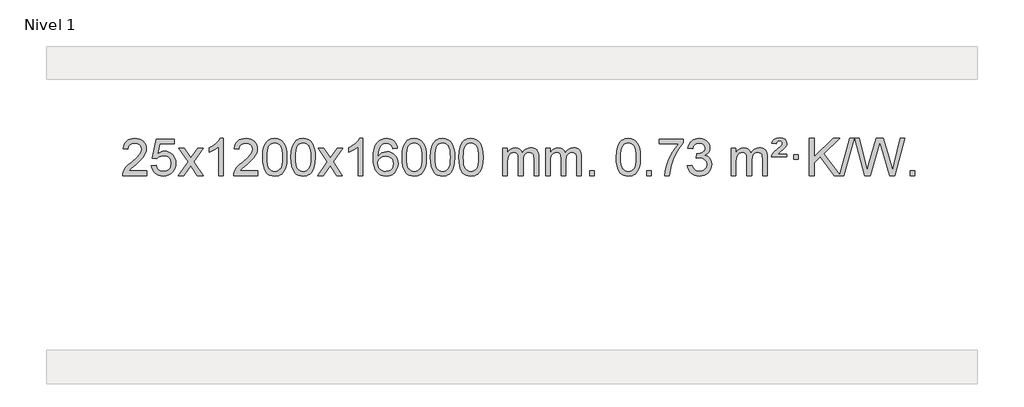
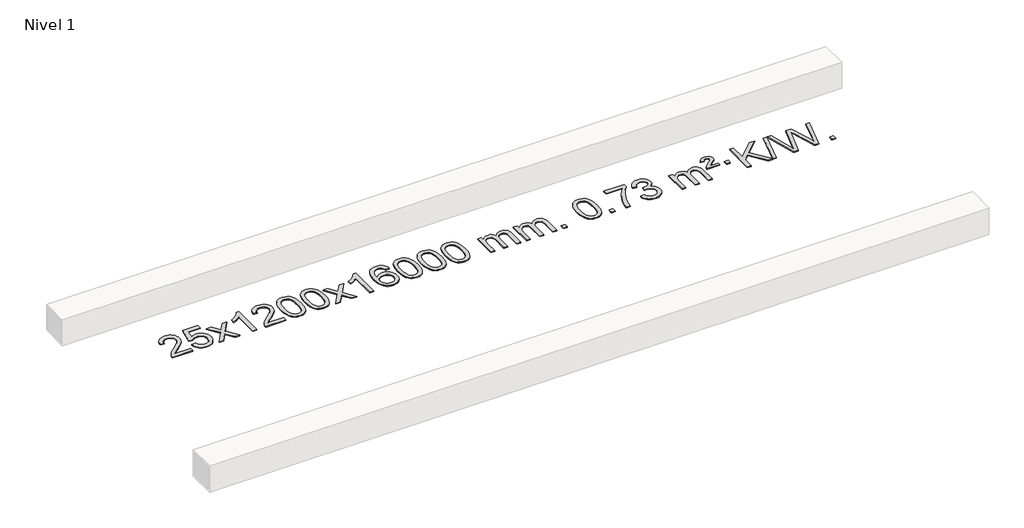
# One storey, part 4 of 4: 1 proxy.
"""IFC4 building model written with IfcOpenShell, lengths in millimetres."""

from ifc_helpers import new_model, si_unit, origin, origin_with_axes, place, context, project, spatial, polyline, outline, extrude, element, save

model = new_model("IFC4")

# Units and contexts
model_context = context("Model", 3, world=origin())
ifc_project = project(units=[si_unit("LENGTHUNIT", "METRE", prefix="MILLI")], contexts=[model_context])

# Site, building, storey
site = spatial("IfcSite", under=ifc_project)
building = spatial("IfcBuilding", under=site)
storey = spatial("IfcBuildingStorey", under=building, Name="Nivel 1", Elevation=0.0)

# Proxy
placement = place(None, origin())
element("IfcBuildingElementProxy", 1, Name="Texto de modelo 1", ObjectType="Texto de modelo 1", at=placement, inside=storey, context=model_context, shape_type="SweptSolid", body=[
    extrude(outline(polyline([(-18907.5476689, 2333.9033514), (-18907.5476689, 2283.6751963), (-19171.2454831, 2283.6751963), (-19170.1418371, 2301.3580575), (-19165.8498805, 2318.3051548), (-19153.46452, 2345.3690069), (-19135.3402003, 2371.6235186), (-19109.1224768, 2399.1043037), (-19072.4569046, 2429.8469757), (-19018.255624, 2477.9904662), (-18985.7348556, 2513.5278669), (-18969.4744714, 2542.3698153), (-18964.0543434, 2570.4269488), (-18969.1679031, 2595.5778145), (-18984.5085823, 2616.4857746), (-19008.0898182, 2630.575655), (-19037.925048, 2635.2722818), (-19069.2563313, 2630.6860196), (-19093.5978566, 2616.927233), (-19109.3064178, 2595.0750425), (-19114.7388086, 2566.2085686), (-19164.9669637, 2572.487088), (-19160.6474159, 2598.4166373), (-19152.7900696, 2621.0720368), (-19141.3949248, 2640.4532866), (-19126.4619815, 2656.5603866), (-19108.3345962, 2669.2216586), (-19087.3561254, 2678.2654243), (-19063.5265692, 2683.6916838), (-19036.8459275, 2685.5004369), (-19009.9261625, 2683.4893487), (-18985.9678476, 2677.4560839), (-18964.9709827, 2667.4006427), (-18946.9355679, 2653.3230251), (-18932.4502143, 2636.2655632), (-18922.1035332, 2617.2705895), (-18915.8955245, 2596.338104), (-18913.8261883, 2573.4681066), (-18916.0580057, 2549.4454124), (-18922.7534581, 2525.839651), (-18934.6360465, 2501.8292194), (-18952.4292723, 2476.5925146), (-18980.7929742, 2446.4629792), (-19024.3869906, 2407.774056), (-19082.1689893, 2359.4588873), (-19104.8305202, 2333.9033514), (-18907.5476689, 2333.9033514)])), origin_with_axes(), (0.0, 0.0, 1.0), 10.0),
    extrude(outline(polyline([(-18857.3195138, 2390.4100258), (-18807.0913588, 2396.6885452), (-18797.8697834, 2366.5344844), (-18781.7810775, 2344.9398112), (-18758.8988174, 2331.9535768), (-18729.2965795, 2327.624832), (-18710.1667158, 2329.1300825), (-18693.2931949, 2333.645834), (-18678.676017, 2341.1720865), (-18666.3151819, 2351.7088399), (-18656.4866013, 2364.7349283), (-18649.4661866, 2379.7291852), (-18643.8498548, 2415.6222052), (-18649.1105673, 2449.4182979), (-18655.686458, 2463.3365), (-18664.8927049, 2475.2681394), (-18676.7599649, 2484.8392026), (-18691.3188949, 2491.6756764), (-18728.5117646, 2497.1448554), (-18752.8778154, 2494.9620889), (-18772.6085531, 2488.4137894), (-18788.3661652, 2478.3828736), (-18800.8128394, 2465.7522585), (-18851.0409945, 2472.0307778), (-18807.0913588, 2679.2219175), (-18612.4572579, 2679.2219175), (-18612.4572579, 2628.9937624), (-18766.4771865, 2628.9937624), (-18787.961495, 2518.3348583), (-18770.2357142, 2531.0390499), (-18752.0807378, 2540.1134724), (-18733.4965656, 2545.5581259), (-18714.4831979, 2547.3730104), (-18690.0221109, 2545.1227989), (-18667.553718, 2538.3721643), (-18647.0780193, 2527.1211066), (-18628.5950147, 2511.3696259), (-18613.2941894, 2492.0803466), (-18602.3650285, 2470.2158933), (-18595.8075319, 2445.7762661), (-18593.6216997, 2418.7614649), (-18595.5898684, 2392.7399451), (-18601.4943744, 2368.5333099), (-18611.3352178, 2346.1415591), (-18625.1123985, 2325.5646928), (-18645.9835703, 2304.4911859), (-18670.3373584, 2289.4386809), (-18698.1737627, 2280.4071779), (-18729.4927833, 2277.3966769), (-18755.4131355, 2279.3311231), (-18778.8257588, 2285.1344616), (-18799.7306532, 2294.8066923), (-18818.1278186, 2308.3478154), (-18833.4347753, 2325.0833805), (-18845.0690434, 2344.3389373), (-18853.0306229, 2366.1144857), (-18857.3195138, 2390.4100258)])), origin_with_axes(), (0.0, 0.0, 1.0), 10.0),
    extrude(outline(polyline([(-18568.5076222, 2283.6751963), (-18461.1841814, 2432.0052168), (-18562.2291028, 2578.7656074), (-18501.7983537, 2578.7656074), (-18453.0417266, 2508.1322643), (-18430.2820938, 2474.7776301), (-18410.5636189, 2502.0499486), (-18355.0379631, 2578.7656074), (-18294.607214, 2578.7656074), (-18400.7534324, 2432.0052168), (-18298.5312886, 2283.6751963), (-18358.9620377, 2283.6751963), (-18420.4719073, 2372.8497919), (-18431.7536218, 2389.1347016), (-18508.0768731, 2283.6751963), (-18568.5076222, 2283.6751963)])), origin_with_axes(), (0.0, 0.0, 1.0), 10.0),
    extrude(outline(polyline([(-18078.7831102, 2283.6751963), (-18129.0112653, 2283.6751963), (-18129.0112653, 2596.8163506), (-18149.980539, 2579.8569906), (-18176.59067, 2562.9221561), (-18229.4675754, 2537.5628239), (-18229.4675754, 2585.0441268), (-18190.0183628, 2606.5039098), (-18155.8421254, 2632.0349203), (-18128.9009007, 2659.1846115), (-18111.1567258, 2685.5004369), (-18078.7831102, 2685.5004369), (-18078.7831102, 2283.6751963)])), origin_with_axes(), (0.0, 0.0, 1.0), 10.0),
    extrude(outline(polyline([(-17702.0719471, 2333.9033514), (-17702.0719471, 2283.6751963), (-17965.7697613, 2283.6751963), (-17964.6661153, 2301.3580575), (-17960.3741587, 2318.3051548), (-17947.9887982, 2345.3690069), (-17929.8644785, 2371.6235186), (-17903.646755, 2399.1043037), (-17866.9811828, 2429.8469757), (-17812.7799022, 2477.9904662), (-17780.2591338, 2513.5278669), (-17763.9987496, 2542.3698153), (-17758.5786216, 2570.4269488), (-17763.6921813, 2595.5778145), (-17779.0328605, 2616.4857746), (-17802.6140964, 2630.575655), (-17832.4493262, 2635.2722818), (-17863.7806095, 2630.6860196), (-17888.1221348, 2616.927233), (-17903.830696, 2595.0750425), (-17909.2630868, 2566.2085686), (-17959.4912419, 2572.487088), (-17955.1716941, 2598.4166373), (-17947.3143478, 2621.0720368), (-17935.919203, 2640.4532866), (-17920.9862597, 2656.5603866), (-17902.8588744, 2669.2216586), (-17881.8804036, 2678.2654243), (-17858.0508474, 2683.6916838), (-17831.3702057, 2685.5004369), (-17804.4504407, 2683.4893487), (-17780.4921258, 2677.4560839), (-17759.4952609, 2667.4006427), (-17741.4598461, 2653.3230251), (-17726.9744925, 2636.2655632), (-17716.6278114, 2617.2705895), (-17710.4198027, 2596.338104), (-17708.3504665, 2573.4681066), (-17710.5822839, 2549.4454124), (-17717.2777363, 2525.839651), (-17729.1603247, 2501.8292194), (-17746.9535505, 2476.5925146), (-17775.3172524, 2446.4629792), (-17818.9112688, 2407.774056), (-17876.6932675, 2359.4588873), (-17899.3547984, 2333.9033514), (-17702.0719471, 2333.9033514)])), origin_with_axes(), (0.0, 0.0, 1.0), 10.0),
    extrude(outline(polyline([(-17651.8437921, 2481.350455), (-17648.1527094, 2545.6684905), (-17637.0794613, 2596.9635034), (-17618.7344125, 2636.0203086), (-17606.8763495, 2651.2536888), (-17593.2279275, 2663.6237209), (-17577.7431612, 2673.1947842), (-17560.3760653, 2680.0312579), (-17519.994885, 2685.5004369), (-17489.0437465, 2682.2630753), (-17461.3299695, 2672.5509907), (-17438.1534038, 2656.7443276), (-17420.8138991, 2635.2232309), (-17407.7173001, 2608.1716415), (-17397.2694514, 2575.7735005), (-17390.4268463, 2534.6320307), (-17388.1459779, 2481.350455), (-17391.8002724, 2417.4003016), (-17402.7631558, 2366.227916), (-17420.9978401, 2327.1343227), (-17432.8283119, 2311.8549571), (-17446.4675369, 2299.4205457), (-17461.9706973, 2289.7851031), (-17479.3929754, 2282.9026441), (-17519.994885, 2277.3966769), (-17547.659611, 2279.7879099), (-17572.1850774, 2286.9616088), (-17593.571284, 2298.9177736), (-17611.818231, 2315.6564044), (-17629.3294139, 2345.9146985), (-17641.8374018, 2383.6164717), (-17649.3421945, 2428.7617238), (-17651.8437921, 2481.350455)]), holes=[polyline([(-17601.615637, 2481.4485569), (-17600.144109, 2437.7840298), (-17595.7295251, 2402.4397671), (-17588.3718851, 2375.4157689), (-17578.0711893, 2356.7120351), (-17565.6122524, 2343.9863837), (-17551.7798894, 2334.8966328), (-17536.5741002, 2329.4427822), (-17519.994885, 2327.624832), (-17503.4156697, 2329.4489136), (-17488.2098806, 2334.9211582), (-17474.3775176, 2344.041566), (-17461.9185807, 2356.8101369), (-17451.6178848, 2375.5445276), (-17444.2602449, 2402.5623944), (-17439.845661, 2437.8637375), (-17438.374133, 2481.4485569), (-17439.79661, 2523.9573215), (-17444.0640412, 2558.6792504), (-17451.1764264, 2585.6143438), (-17461.1337658, 2604.7626017), (-17473.3842362, 2618.1105868), (-17487.3760147, 2627.6448618), (-17503.1091014, 2633.3654268), (-17520.5834962, 2635.2722818), (-17537.0768723, 2633.5922874), (-17552.025144, 2628.5523041), (-17565.4283114, 2620.1523318), (-17577.2863744, 2608.3923707), (-17587.9304268, 2587.5457243), (-17595.5333213, 2559.4395399), (-17600.0950581, 2524.0738174), (-17601.615637, 2481.4485569)])]), origin_with_axes(), (0.0, 0.0, 1.0), 10.0),
    extrude(outline(polyline([(-17344.1963422, 2481.350455), (-17340.5052595, 2545.6684905), (-17329.4320115, 2596.9635034), (-17311.0869627, 2636.0203086), (-17299.2288997, 2651.2536888), (-17285.5804777, 2663.6237209), (-17270.0957113, 2673.1947842), (-17252.7286155, 2680.0312579), (-17212.3474351, 2685.5004369), (-17181.3962966, 2682.2630753), (-17153.6825196, 2672.5509907), (-17130.505954, 2656.7443276), (-17113.1664492, 2635.2232309), (-17100.0698502, 2608.1716415), (-17089.6220016, 2575.7735005), (-17082.7793964, 2534.6320307), (-17080.4985281, 2481.350455), (-17084.1528226, 2417.4003016), (-17095.115706, 2366.227916), (-17113.3503902, 2327.1343227), (-17125.1808621, 2311.8549571), (-17138.820087, 2299.4205457), (-17154.3232475, 2289.7851031), (-17171.7455256, 2282.9026441), (-17212.3474351, 2277.3966769), (-17240.0121612, 2279.7879099), (-17264.5376275, 2286.9616088), (-17285.9238342, 2298.9177736), (-17304.1707811, 2315.6564044), (-17321.6819641, 2345.9146985), (-17334.1899519, 2383.6164717), (-17341.6947446, 2428.7617238), (-17344.1963422, 2481.350455)]), holes=[polyline([(-17293.9681871, 2481.4485569), (-17292.4966592, 2437.7840298), (-17288.0820752, 2402.4397671), (-17280.7244353, 2375.4157689), (-17270.4237395, 2356.7120351), (-17257.9648025, 2343.9863837), (-17244.1324395, 2334.8966328), (-17228.9266504, 2329.4427822), (-17212.3474351, 2327.624832), (-17195.7682199, 2329.4489136), (-17180.5624308, 2334.9211582), (-17166.7300677, 2344.041566), (-17154.2711308, 2356.8101369), (-17143.970435, 2375.5445276), (-17136.6127951, 2402.5623944), (-17132.1982111, 2437.8637375), (-17130.7266831, 2481.4485569), (-17132.1491602, 2523.9573215), (-17136.4165913, 2558.6792504), (-17143.5289766, 2585.6143438), (-17153.4863159, 2604.7626017), (-17165.7367864, 2618.1105868), (-17179.7285649, 2627.6448618), (-17195.4616516, 2633.3654268), (-17212.9360463, 2635.2722818), (-17229.4294225, 2633.5922874), (-17244.3776942, 2628.5523041), (-17257.7808616, 2620.1523318), (-17269.6389245, 2608.3923707), (-17280.2829769, 2587.5457243), (-17287.8858715, 2559.4395399), (-17292.4476082, 2524.0738174), (-17293.9681871, 2481.4485569)])]), origin_with_axes(), (0.0, 0.0, 1.0), 10.0),
    extrude(outline(polyline([(-17055.3844505, 2283.6751963), (-16948.0610098, 2432.0052168), (-17049.1059312, 2578.7656074), (-16988.6751821, 2578.7656074), (-16939.918555, 2508.1322643), (-16917.1589222, 2474.7776301), (-16897.4404473, 2502.0499486), (-16841.9147915, 2578.7656074), (-16781.4840424, 2578.7656074), (-16887.6302607, 2432.0052168), (-16785.408117, 2283.6751963), (-16845.8388661, 2283.6751963), (-16907.3487357, 2372.8497919), (-16918.6304502, 2389.1347016), (-16994.9537015, 2283.6751963), (-17055.3844505, 2283.6751963)])), origin_with_axes(), (0.0, 0.0, 1.0), 10.0),
    extrude(outline(polyline([(-16565.6599386, 2283.6751963), (-16615.8880936, 2283.6751963), (-16615.8880936, 2596.8163506), (-16636.8573674, 2579.8569906), (-16663.4674983, 2562.9221561), (-16716.3444038, 2537.5628239), (-16716.3444038, 2585.0441268), (-16676.8951912, 2606.5039098), (-16642.7189538, 2632.0349203), (-16615.777729, 2659.1846115), (-16598.0335541, 2685.5004369), (-16565.6599386, 2685.5004369), (-16565.6599386, 2283.6751963)])), origin_with_axes(), (0.0, 0.0, 1.0), 10.0),
    extrude(outline(polyline([(-16188.9487755, 2578.7656074), (-16239.1769306, 2572.487088), (-16247.2703345, 2597.3804363), (-16258.2086925, 2614.3765845), (-16280.9928507, 2630.0483575), (-16308.5349494, 2635.2722818), (-16331.8831934, 2632.231124), (-16353.8580112, 2623.1076505), (-16372.7303576, 2603.8919476), (-16388.1446132, 2577.4412322), (-16398.5556736, 2540.0276333), (-16402.4184346, 2487.92328), (-16382.270764, 2511.4309395), (-16358.1254423, 2527.997892), (-16331.3313704, 2537.8203413), (-16303.2374487, 2541.0944911), (-16279.1043898, 2538.8565423), (-16256.8352663, 2532.1426958), (-16236.4300783, 2520.9529518), (-16217.8888258, 2505.2873102), (-16202.4807016, 2486.0777387), (-16191.4748985, 2464.256205), (-16184.8714167, 2439.8227092), (-16182.6702561, 2412.7772511), (-16186.8150599, 2376.8106548), (-16199.2494714, 2343.4682833), (-16218.9434208, 2315.1904206), (-16244.8668388, 2294.4173506), (-16275.8425028, 2281.6518453), (-16310.6931904, 2277.3966769), (-16340.6357192, 2280.2171056), (-16367.6781115, 2288.6783914), (-16391.8203674, 2302.7805346), (-16413.062487, 2322.523535), (-16430.3805319, 2348.7412585), (-16442.750564, 2382.267571), (-16450.1725832, 2423.1024725), (-16452.6465896, 2471.2459629), (-16449.8997374, 2525.220383), (-16441.6591807, 2571.2853401), (-16427.9249196, 2609.4408344), (-16408.6969539, 2639.6868658), (-16387.8564389, 2659.7303031), (-16363.6927232, 2674.0470441), (-16336.2058068, 2682.6370887), (-16305.3956897, 2685.5004369), (-16282.2620436, 2683.728472), (-16261.3234267, 2678.4125771), (-16242.579839, 2669.5527524), (-16226.0312806, 2657.1489978), (-16212.1253412, 2641.6182462), (-16201.3096105, 2623.3774307), (-16193.5840886, 2602.426551), (-16188.9487755, 2578.7656074)]), holes=[polyline([(-16402.4184346, 2413.5620661), (-16399.5121668, 2391.3052054), (-16390.7933635, 2370.0538888), (-16377.2553061, 2351.7824163), (-16359.8912759, 2338.4650881), (-16338.9342649, 2330.334896), (-16314.617265, 2327.624832), (-16281.4710973, 2333.2411638), (-16267.5559608, 2340.2615785), (-16255.4127893, 2350.0901592), (-16245.5627489, 2362.3283669), (-16238.5270057, 2376.5776628), (-16232.8984112, 2411.1095194), (-16238.4534293, 2444.2556872), (-16245.397202, 2457.8765181), (-16255.1184837, 2469.5291803), (-16267.2984434, 2478.8641859), (-16281.6182501, 2485.5320471), (-16316.6774042, 2490.866336), (-16349.7745211, 2485.5320471), (-16377.4515098, 2469.5291803), (-16388.3745394, 2458.0298022), (-16396.1767034, 2444.8688239), (-16400.8580018, 2430.0462451), (-16402.4184346, 2413.5620661)])]), origin_with_axes(), (0.0, 0.0, 1.0), 10.0),
    extrude(outline(polyline([(-16138.7206204, 2481.350455), (-16135.0295377, 2545.6684905), (-16123.9562897, 2596.9635034), (-16105.6112409, 2636.0203086), (-16093.7531779, 2651.2536888), (-16080.1047559, 2663.6237209), (-16064.6199895, 2673.1947842), (-16047.2528937, 2680.0312579), (-16006.8717134, 2685.5004369), (-15975.9205748, 2682.2630753), (-15948.2067979, 2672.5509907), (-15925.0302322, 2656.7443276), (-15907.6907275, 2635.2232309), (-15894.5941284, 2608.1716415), (-15884.1462798, 2575.7735005), (-15877.3036746, 2534.6320307), (-15875.0228063, 2481.350455), (-15878.6771008, 2417.4003016), (-15889.6399842, 2366.227916), (-15907.8746684, 2327.1343227), (-15919.7051403, 2311.8549571), (-15933.3443652, 2299.4205457), (-15948.8475257, 2289.7851031), (-15966.2698038, 2282.9026441), (-16006.8717134, 2277.3966769), (-16034.5364394, 2279.7879099), (-16059.0619057, 2286.9616088), (-16080.4481124, 2298.9177736), (-16098.6950593, 2315.6564044), (-16116.2062423, 2345.9146985), (-16128.7142302, 2383.6164717), (-16136.2190229, 2428.7617238), (-16138.7206204, 2481.350455)]), holes=[polyline([(-16088.4924653, 2481.4485569), (-16087.0209374, 2437.7840298), (-16082.6063534, 2402.4397671), (-16075.2487135, 2375.4157689), (-16064.9480177, 2356.7120351), (-16052.4890808, 2343.9863837), (-16038.6567177, 2334.8966328), (-16023.4509286, 2329.4427822), (-16006.8717134, 2327.624832), (-15990.2924981, 2329.4489136), (-15975.086709, 2334.9211582), (-15961.2543459, 2344.041566), (-15948.795409, 2356.8101369), (-15938.4947132, 2375.5445276), (-15931.1370733, 2402.5623944), (-15926.7224893, 2437.8637375), (-15925.2509614, 2481.4485569), (-15926.6734384, 2523.9573215), (-15930.9408695, 2558.6792504), (-15938.0532548, 2585.6143438), (-15948.0105941, 2604.7626017), (-15960.2610646, 2618.1105868), (-15974.2528431, 2627.6448618), (-15989.9859298, 2633.3654268), (-16007.4603245, 2635.2722818), (-16023.9537007, 2633.5922874), (-16038.9019724, 2628.5523041), (-16052.3051398, 2620.1523318), (-16064.1632027, 2608.3923707), (-16074.8072551, 2587.5457243), (-16082.4101497, 2559.4395399), (-16086.9718864, 2524.0738174), (-16088.4924653, 2481.4485569)])]), origin_with_axes(), (0.0, 0.0, 1.0), 10.0),
    extrude(outline(polyline([(-15831.0731706, 2481.350455), (-15827.3820879, 2545.6684905), (-15816.3088398, 2596.9635034), (-15797.963791, 2636.0203086), (-15786.105728, 2651.2536888), (-15772.457306, 2663.6237209), (-15756.9725397, 2673.1947842), (-15739.6054439, 2680.0312579), (-15699.2242635, 2685.5004369), (-15668.273125, 2682.2630753), (-15640.559348, 2672.5509907), (-15617.3827823, 2656.7443276), (-15600.0432776, 2635.2232309), (-15586.9466786, 2608.1716415), (-15576.4988299, 2575.7735005), (-15569.6562248, 2534.6320307), (-15567.3753564, 2481.350455), (-15571.0296509, 2417.4003016), (-15581.9925344, 2366.227916), (-15600.2272186, 2327.1343227), (-15612.0576904, 2311.8549571), (-15625.6969154, 2299.4205457), (-15641.2000758, 2289.7851031), (-15658.622354, 2282.9026441), (-15699.2242635, 2277.3966769), (-15726.8889896, 2279.7879099), (-15751.4144559, 2286.9616088), (-15772.8006626, 2298.9177736), (-15791.0476095, 2315.6564044), (-15808.5587925, 2345.9146985), (-15821.0667803, 2383.6164717), (-15828.571573, 2428.7617238), (-15831.0731706, 2481.350455)]), holes=[polyline([(-15780.8450155, 2481.4485569), (-15779.3734875, 2437.7840298), (-15774.9589036, 2402.4397671), (-15767.6012637, 2375.4157689), (-15757.3005678, 2356.7120351), (-15744.8416309, 2343.9863837), (-15731.0092679, 2334.8966328), (-15715.8034788, 2329.4427822), (-15699.2242635, 2327.624832), (-15682.6450483, 2329.4489136), (-15667.4392591, 2334.9211582), (-15653.6068961, 2344.041566), (-15641.1479592, 2356.8101369), (-15630.8472633, 2375.5445276), (-15623.4896234, 2402.5623944), (-15619.0750395, 2437.8637375), (-15617.6035115, 2481.4485569), (-15619.0259886, 2523.9573215), (-15623.2934197, 2558.6792504), (-15630.405805, 2585.6143438), (-15640.3631443, 2604.7626017), (-15652.6136147, 2618.1105868), (-15666.6053933, 2627.6448618), (-15682.3384799, 2633.3654268), (-15699.8128747, 2635.2722818), (-15716.3062508, 2633.5922874), (-15731.2545226, 2628.5523041), (-15744.6576899, 2620.1523318), (-15756.5157529, 2608.3923707), (-15767.1598053, 2587.5457243), (-15774.7626999, 2559.4395399), (-15779.3244366, 2524.0738174), (-15780.8450155, 2481.4485569)])]), origin_with_axes(), (0.0, 0.0, 1.0), 10.0),
    extrude(outline(polyline([(-15523.4257208, 2481.350455), (-15519.7346381, 2545.6684905), (-15508.66139, 2596.9635034), (-15490.3163412, 2636.0203086), (-15478.4582782, 2651.2536888), (-15464.8098562, 2663.6237209), (-15449.3250899, 2673.1947842), (-15431.957994, 2680.0312579), (-15391.5768137, 2685.5004369), (-15360.6256752, 2682.2630753), (-15332.9118982, 2672.5509907), (-15309.7353325, 2656.7443276), (-15292.3958278, 2635.2232309), (-15279.2992288, 2608.1716415), (-15268.8513801, 2575.7735005), (-15262.008775, 2534.6320307), (-15259.7279066, 2481.350455), (-15263.3822011, 2417.4003016), (-15274.3450846, 2366.227916), (-15292.5797688, 2327.1343227), (-15304.4102406, 2311.8549571), (-15318.0494656, 2299.4205457), (-15333.552626, 2289.7851031), (-15350.9749041, 2282.9026441), (-15391.5768137, 2277.3966769), (-15419.2415397, 2279.7879099), (-15443.7670061, 2286.9616088), (-15465.1532127, 2298.9177736), (-15483.4001597, 2315.6564044), (-15500.9113427, 2345.9146985), (-15513.4193305, 2383.6164717), (-15520.9241232, 2428.7617238), (-15523.4257208, 2481.350455)]), holes=[polyline([(-15473.1975657, 2481.4485569), (-15471.7260377, 2437.7840298), (-15467.3114538, 2402.4397671), (-15459.9538139, 2375.4157689), (-15449.653118, 2356.7120351), (-15437.1941811, 2343.9863837), (-15423.3618181, 2334.8966328), (-15408.1560289, 2329.4427822), (-15391.5768137, 2327.624832), (-15374.9975984, 2329.4489136), (-15359.7918093, 2334.9211582), (-15345.9594463, 2344.041566), (-15333.5005094, 2356.8101369), (-15323.1998135, 2375.5445276), (-15315.8421736, 2402.5623944), (-15311.4275897, 2437.8637375), (-15309.9560617, 2481.4485569), (-15311.3785387, 2523.9573215), (-15315.6459699, 2558.6792504), (-15322.7583551, 2585.6143438), (-15332.7156945, 2604.7626017), (-15344.9661649, 2618.1105868), (-15358.9579434, 2627.6448618), (-15374.6910301, 2633.3654268), (-15392.1654249, 2635.2722818), (-15408.658801, 2633.5922874), (-15423.6070727, 2628.5523041), (-15437.0102401, 2620.1523318), (-15448.8683031, 2608.3923707), (-15459.5123555, 2587.5457243), (-15467.11525, 2559.4395399), (-15471.6769868, 2524.0738174), (-15473.1975657, 2481.4485569)])]), origin_with_axes(), (0.0, 0.0, 1.0), 10.0),
    extrude(outline(polyline([(-15046.2582475, 2283.6751963), (-15046.2582475, 2578.7656074), (-14996.0300925, 2578.7656074), (-14996.0300925, 2530.205184), (-14980.9224052, 2552.5110956), (-14961.4982359, 2569.9854904), (-14938.419772, 2581.2794677), (-14912.3492013, 2585.0441268), (-14884.4146951, 2581.2058913), (-14862.0229444, 2569.6911848), (-14845.2965763, 2551.2602969), (-14834.3582183, 2526.6735169), (-14816.0499577, 2552.2106587), (-14795.1665231, 2570.4514743), (-14771.7079145, 2581.3959636), (-14745.674132, 2585.0441268), (-14725.5663153, 2583.5266135), (-14707.9171766, 2578.9740738), (-14692.7267159, 2571.3865077), (-14679.9949331, 2560.7639151), (-14669.9302949, 2546.9836687), (-14662.7412676, 2529.9231411), (-14658.4278512, 2509.5823325), (-14656.9900457, 2485.9612427), (-14656.9900457, 2283.6751963), (-14707.2182008, 2283.6751963), (-14707.2182008, 2464.3788323), (-14708.3831604, 2489.4315962), (-14711.8780394, 2506.3173798), (-14718.4263389, 2517.8811372), (-14728.7515602, 2526.9678224), (-14742.0321003, 2532.8539344), (-14757.4463559, 2534.8159717), (-14784.6573608, 2529.7882511), (-14806.8406451, 2514.7050893), (-14815.4460181, 2503.1352005), (-14821.5927131, 2488.5364167), (-14826.5100691, 2450.2521637), (-14826.5100691, 2283.6751963), (-14876.7382242, 2283.6751963), (-14876.7382242, 2469.9706387), (-14879.6444919, 2498.3711287), (-14888.3632952, 2518.6291639), (-14903.7039744, 2530.7692697), (-14926.4758699, 2534.8159717), (-14945.8264629, 2532.1181704), (-14963.6564769, 2524.0247665), (-14978.3717567, 2510.7319637), (-14988.378147, 2492.4359658), (-14994.1171061, 2467.0521082), (-14996.0300925, 2432.4957261), (-14996.0300925, 2283.6751963), (-15046.2582475, 2283.6751963)])), origin_with_axes(), (0.0, 0.0, 1.0), 10.0),
    extrude(outline(polyline([(-14581.6478131, 2283.6751963), (-14581.6478131, 2578.7656074), (-14531.419658, 2578.7656074), (-14531.419658, 2530.205184), (-14516.3119708, 2552.5110956), (-14496.8878014, 2569.9854904), (-14473.8093376, 2581.2794677), (-14447.7387669, 2585.0441268), (-14419.8042607, 2581.2058913), (-14397.4125099, 2569.6911848), (-14380.6861419, 2551.2602969), (-14369.7477839, 2526.6735169), (-14351.4395233, 2552.2106587), (-14330.5560887, 2570.4514743), (-14307.0974801, 2581.3959636), (-14281.0636976, 2585.0441268), (-14260.9558809, 2583.5266135), (-14243.3067421, 2578.9740738), (-14228.1162814, 2571.3865077), (-14215.3844987, 2560.7639151), (-14205.3198605, 2546.9836687), (-14198.1308331, 2529.9231411), (-14193.8174167, 2509.5823325), (-14192.3796113, 2485.9612427), (-14192.3796113, 2283.6751963), (-14242.6077663, 2283.6751963), (-14242.6077663, 2464.3788323), (-14243.772726, 2489.4315962), (-14247.267605, 2506.3173798), (-14253.8159045, 2517.8811372), (-14264.1411258, 2526.9678224), (-14277.4216658, 2532.8539344), (-14292.8359214, 2534.8159717), (-14320.0469263, 2529.7882511), (-14342.2302106, 2514.7050893), (-14350.8355836, 2503.1352005), (-14356.9822786, 2488.5364167), (-14361.8996347, 2450.2521637), (-14361.8996347, 2283.6751963), (-14412.1277897, 2283.6751963), (-14412.1277897, 2469.9706387), (-14415.0340575, 2498.3711287), (-14423.7528608, 2518.6291639), (-14439.09354, 2530.7692697), (-14461.8654355, 2534.8159717), (-14481.2160284, 2532.1181704), (-14499.0460425, 2524.0247665), (-14513.7613223, 2510.7319637), (-14523.7677125, 2492.4359658), (-14529.5066717, 2467.0521082), (-14531.419658, 2432.4957261), (-14531.419658, 2283.6751963), (-14581.6478131, 2283.6751963)])), origin_with_axes(), (0.0, 0.0, 1.0), 10.0),
    extrude(outline(polyline([(-14104.4803399, 2283.6751963), (-14104.4803399, 2333.9033514), (-14054.2521848, 2333.9033514), (-14054.2521848, 2283.6751963), (-14104.4803399, 2283.6751963)])), origin_with_axes(), (0.0, 0.0, 1.0), 10.0),
    extrude(outline(polyline([(-13815.6684482, 2481.350455), (-13811.9773655, 2545.6684905), (-13800.9041175, 2596.9635034), (-13782.5590686, 2636.0203086), (-13770.7010057, 2651.2536888), (-13757.0525836, 2663.6237209), (-13741.5678173, 2673.1947842), (-13724.2007215, 2680.0312579), (-13683.8195411, 2685.5004369), (-13652.8684026, 2682.2630753), (-13625.1546256, 2672.5509907), (-13601.9780599, 2656.7443276), (-13584.6385552, 2635.2232309), (-13571.5419562, 2608.1716415), (-13561.0941075, 2575.7735005), (-13554.2515024, 2534.6320307), (-13551.9706341, 2481.350455), (-13555.6249286, 2417.4003016), (-13566.587812, 2366.227916), (-13584.8224962, 2327.1343227), (-13596.6529681, 2311.8549571), (-13610.292193, 2299.4205457), (-13625.7953535, 2289.7851031), (-13643.2176316, 2282.9026441), (-13683.8195411, 2277.3966769), (-13711.4842672, 2279.7879099), (-13736.0097335, 2286.9616088), (-13757.3959402, 2298.9177736), (-13775.6428871, 2315.6564044), (-13793.1540701, 2345.9146985), (-13805.6620579, 2383.6164717), (-13813.1668506, 2428.7617238), (-13815.6684482, 2481.350455)]), holes=[polyline([(-13765.4402931, 2481.4485569), (-13763.9687652, 2437.7840298), (-13759.5541812, 2402.4397671), (-13752.1965413, 2375.4157689), (-13741.8958454, 2356.7120351), (-13729.4369085, 2343.9863837), (-13715.6045455, 2334.8966328), (-13700.3987564, 2329.4427822), (-13683.8195411, 2327.624832), (-13667.2403259, 2329.4489136), (-13652.0345368, 2334.9211582), (-13638.2021737, 2344.041566), (-13625.7432368, 2356.8101369), (-13615.442541, 2375.5445276), (-13608.0849011, 2402.5623944), (-13603.6703171, 2437.8637375), (-13602.1987891, 2481.4485569), (-13603.6212662, 2523.9573215), (-13607.8886973, 2558.6792504), (-13615.0010826, 2585.6143438), (-13624.9584219, 2604.7626017), (-13637.2088924, 2618.1105868), (-13651.2006709, 2627.6448618), (-13666.9337576, 2633.3654268), (-13684.4081523, 2635.2722818), (-13700.9015285, 2633.5922874), (-13715.8498002, 2628.5523041), (-13729.2529675, 2620.1523318), (-13741.1110305, 2608.3923707), (-13751.7550829, 2587.5457243), (-13759.3579775, 2559.4395399), (-13763.9197142, 2524.0738174), (-13765.4402931, 2481.4485569)])]), origin_with_axes(), (0.0, 0.0, 1.0), 10.0),
    extrude(outline(polyline([(-13482.9069208, 2283.6751963), (-13482.9069208, 2333.9033514), (-13432.6787658, 2333.9033514), (-13432.6787658, 2283.6751963), (-13482.9069208, 2283.6751963)])), origin_with_axes(), (0.0, 0.0, 1.0), 10.0),
    extrude(outline(polyline([(-13351.0580138, 2628.9937624), (-13351.0580138, 2679.2219175), (-13087.3601996, 2679.2219175), (-13087.3601996, 2638.6077453), (-13124.9454768, 2591.0406033), (-13162.162872, 2530.5485405), (-13194.9902087, 2462.649787), (-13219.4053104, 2392.8625725), (-13231.373738, 2340.6478546), (-13238.0446649, 2283.6751963), (-13288.2728199, 2283.6751963), (-13282.8404291, 2335.4484558), (-13268.3090903, 2396.9828508), (-13245.071211, 2462.2083286), (-13213.5191985, 2525.0548361), (-13176.6819481, 2581.8680789), (-13137.5883547, 2628.9937624), (-13351.0580138, 2628.9937624)])), origin_with_axes(), (0.0, 0.0, 1.0), 10.0),
    extrude(outline(polyline([(-13043.4105639, 2390.4100258), (-12993.1824089, 2396.6885452), (-12981.9374825, 2365.12427), (-12965.4686319, 2343.8116398), (-12942.9665165, 2331.6715339), (-12913.621796, 2327.624832), (-12879.1880413, 2333.1921129), (-12864.9142199, 2340.1512139), (-12852.6024358, 2349.8939554), (-12835.6062876, 2374.8118292), (-12829.9409049, 2405.0272038), (-12835.5572367, 2433.7097367), (-12852.406232, 2456.9721415), (-12877.912717, 2472.3863971), (-12909.5015177, 2477.5244823), (-12944.7200874, 2472.0307778), (-12939.128281, 2522.2589329), (-12931.0839281, 2521.6703217), (-12900.9911809, 2525.2755653), (-12874.0867443, 2536.0912959), (-12863.0134962, 2544.270539), (-12855.1040333, 2554.3872938), (-12850.3583556, 2566.4415605), (-12848.776463, 2580.4333391), (-12853.3627252, 2602.1261141), (-12867.1215118, 2619.7231362), (-12888.115311, 2631.3849954), (-12914.406611, 2635.2722818), (-12940.7469618, 2631.3482072), (-12962.2803213, 2619.5759834), (-12978.0011452, 2599.9556103), (-12986.9038895, 2572.487088), (-13037.1320446, 2578.7656074), (-13031.1784876, 2602.7453821), (-13022.3431883, 2623.86794), (-13010.6261468, 2642.133281), (-12996.027363, 2657.5414053), (-12979.0066893, 2669.7734816), (-12960.0239784, 2678.510679), (-12939.0792301, 2683.7529974), (-12916.1724445, 2685.5004369), (-12884.5959066, 2682.0546089), (-12855.5945427, 2671.7171248), (-12831.1426527, 2655.4076897), (-12813.2145368, 2634.0460085), (-12802.2148652, 2609.434703), (-12798.5483079, 2583.376395), (-12802.0309242, 2559.0961834), (-12812.4787728, 2537.0723146), (-12829.7447011, 2518.3103328), (-12853.6815563, 2503.8157822), (-12822.2399084, 2491.1115907), (-12798.9407154, 2469.4801293), (-12784.5197412, 2440.0986207), (-12779.7127498, 2404.144287), (-12782.1162455, 2378.6623275), (-12789.3267326, 2355.1914562), (-12801.3442111, 2333.7316731), (-12818.168681, 2314.2829783), (-12838.6658395, 2298.1452214), (-12861.7013838, 2286.6182523), (-12887.2753138, 2279.7020708), (-12915.3876296, 2277.3966769), (-12940.7960127, 2279.3648456), (-12963.948053, 2285.2693516), (-12984.8437503, 2295.110195), (-13003.4831047, 2308.8873757), (-13019.1119582, 2325.7915534), (-13030.9761525, 2345.0133876), (-13039.0756878, 2366.5528785), (-13043.4105639, 2390.4100258)])), origin_with_axes(), (0.0, 0.0, 1.0), 10.0),
    extrude(outline(polyline([(-12566.2430907, 2283.6751963), (-12566.2430907, 2578.7656074), (-12516.0149357, 2578.7656074), (-12516.0149357, 2530.205184), (-12500.9072484, 2552.5110956), (-12481.483079, 2569.9854904), (-12458.4046152, 2581.2794677), (-12432.3340445, 2585.0441268), (-12404.3995383, 2581.2058913), (-12382.0077875, 2569.6911848), (-12365.2814195, 2551.2602969), (-12354.3430615, 2526.6735169), (-12336.0348009, 2552.2106587), (-12315.1513663, 2570.4514743), (-12291.6927577, 2581.3959636), (-12265.6589752, 2585.0441268), (-12245.5511585, 2583.5266135), (-12227.9020198, 2578.9740738), (-12212.711559, 2571.3865077), (-12199.9797763, 2560.7639151), (-12189.9151381, 2546.9836687), (-12182.7261108, 2529.9231411), (-12178.4126944, 2509.5823325), (-12176.9748889, 2485.9612427), (-12176.9748889, 2283.6751963), (-12227.203044, 2283.6751963), (-12227.203044, 2464.3788323), (-12228.3680036, 2489.4315962), (-12231.8628826, 2506.3173798), (-12238.4111821, 2517.8811372), (-12248.7364034, 2526.9678224), (-12262.0169434, 2532.8539344), (-12277.431199, 2534.8159717), (-12304.642204, 2529.7882511), (-12326.8254883, 2514.7050893), (-12335.4308613, 2503.1352005), (-12341.5775563, 2488.5364167), (-12346.4949123, 2450.2521637), (-12346.4949123, 2283.6751963), (-12396.7230673, 2283.6751963), (-12396.7230673, 2469.9706387), (-12399.6293351, 2498.3711287), (-12408.3481384, 2518.6291639), (-12423.6888176, 2530.7692697), (-12446.4607131, 2534.8159717), (-12465.811306, 2532.1181704), (-12483.6413201, 2524.0247665), (-12498.3565999, 2510.7319637), (-12508.3629902, 2492.4359658), (-12514.1019493, 2467.0521082), (-12516.0149357, 2432.4957261), (-12516.0149357, 2283.6751963), (-12566.2430907, 2283.6751963)])), origin_with_axes(), (0.0, 0.0, 1.0), 10.0),
    extrude(outline(polyline([(-12133.0252532, 2484.5878166), (-12129.1992805, 2500.4067424), (-12120.8606219, 2516.2747191), (-12099.3517879, 2541.4133221), (-12067.3951053, 2569.1516246), (-12023.2492658, 2606.5284353), (-12016.1123551, 2618.0554045), (-12013.7333849, 2629.8766792), (-12015.6218458, 2641.9677341), (-12021.2872285, 2651.7533952), (-12030.6559567, 2658.2281183), (-12043.6544538, 2660.3863594), (-12056.0888653, 2658.7676786), (-12064.9425586, 2653.9116363), (-12071.3682308, 2644.4448062), (-12076.5185787, 2628.9937624), (-12126.7467338, 2635.2722818), (-12115.9064777, 2660.4844612), (-12099.2782115, 2678.0446951), (-12075.5130346, 2688.345391), (-12043.2620464, 2691.7789563), (-12007.479391, 2687.6464152), (-11982.7331954, 2675.248792), (-11968.3122212, 2656.9160059), (-11963.5052298, 2634.9779762), (-11967.6009827, 2612.0711907), (-11979.8882413, 2590.4397294), (-12000.4160567, 2570.6231525), (-12036.8854251, 2542.566019), (-12062.490012, 2515.9804135), (-11963.5052298, 2515.9804135), (-11963.5052298, 2484.5878166), (-12133.0252532, 2484.5878166)])), origin_with_axes(), (0.0, 0.0, 1.0), 10.0),
    extrude(outline(polyline([(-11888.1629972, 2459.4737391), (-11888.1629972, 2509.7018941), (-11837.9348421, 2509.7018941), (-11837.9348421, 2459.4737391), (-11888.1629972, 2459.4737391)])), origin_with_axes(), (0.0, 0.0, 1.0), 10.0),
    extrude(outline(polyline([(-11447.2932142, 2283.6751963), (-11600.7245317, 2486.3536502), (-11668.4148188, 2421.8026228), (-11668.4148188, 2283.6751963), (-11718.6429738, 2283.6751963), (-11718.6429738, 2685.5004369), (-11668.4148188, 2685.5004369), (-11668.4148188, 2488.8061968), (-11462.4009015, 2685.5004369), (-11392.1599659, 2685.5004369), (-11565.1135545, 2520.2968956), (-11390.4599447, 2289.7197161), (-11279.1466169, 2685.5004369), (-11233.8235551, 2685.5004369), (-11346.836904, 2283.6751963), (-11385.8814465, 2283.6751963), (-11392.1599659, 2283.6751963), (-11447.2932142, 2283.6751963)])), origin_with_axes(), (0.0, 0.0, 1.0), 10.0),
    extrude(outline(polyline([(-11119.3386782, 2283.6751963), (-11228.9184619, 2685.5004369), (-11177.1206769, 2685.5004369), (-11113.5506682, 2421.4102153), (-11093.9302951, 2339.8875652), (-11072.9364959, 2411.9924362), (-10993.2777812, 2685.5004369), (-10918.6222617, 2685.5004369), (-10860.7421611, 2487.236567), (-10835.9469146, 2413.6601679), (-10817.6754422, 2339.8875652), (-10798.6436803, 2419.0557705), (-10734.4850603, 2685.5004369), (-10682.6872754, 2685.5004369), (-10792.3651609, 2283.6751963), (-10846.0268813, 2283.6751963), (-10942.3629131, 2593.6770909), (-10955.8028686, 2636.9400135), (-10970.9105559, 2584.847923), (-11058.7117254, 2283.6751963), (-11119.3386782, 2283.6751963)])), origin_with_axes(), (0.0, 0.0, 1.0), 10.0),
    extrude(outline(polyline([(-10626.180601, 2283.6751963), (-10626.180601, 2333.9033514), (-10575.9524459, 2333.9033514), (-10575.9524459, 2283.6751963), (-10626.180601, 2283.6751963)])), origin_with_axes(), (0.0, 0.0, 1.0), 10.0),
])

save(model, "model.ifc")
